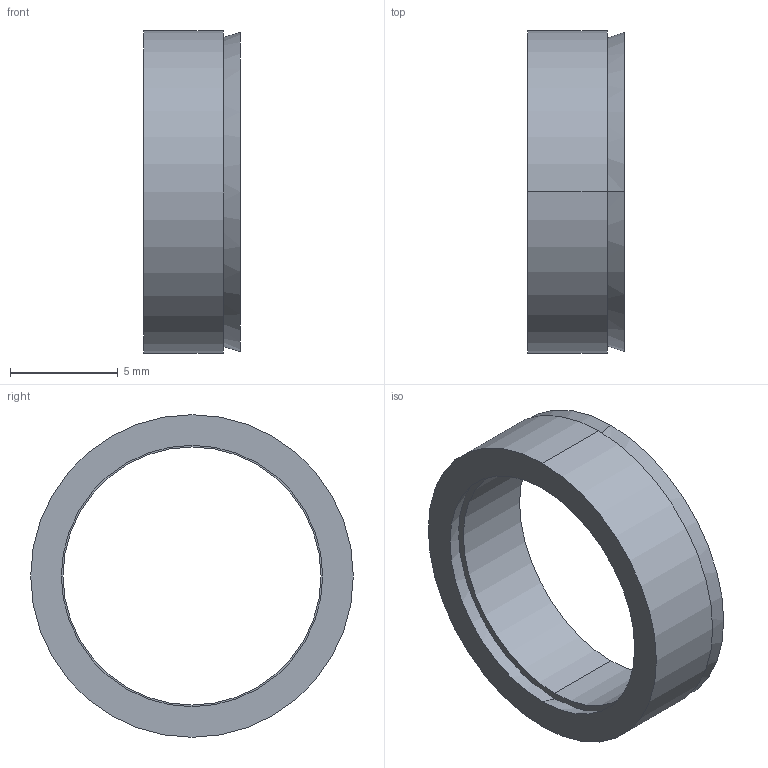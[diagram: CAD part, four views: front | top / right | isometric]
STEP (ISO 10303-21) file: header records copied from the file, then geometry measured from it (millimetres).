
FILE_DESCRIPTION (( 'STEP AP203' ), '1' );
FILE_NAME ('R-12-15.STEP', '2017-11-06T01:31:32', ( 'MYCOM' ), ( '' ), 'SwSTEP 2.0', 'SolidWorks 2015', '' );
FILE_SCHEMA (( 'CONFIG_CONTROL_DESIGN' ));
Length unit declared in the file: millimetre
Products named in the file (1): R-12-15
Bounding box: 4.5 x 15 x 15 mm (x, y, z)
Surface area: 789.1 mm2 (no closed solid volume)
Topology: 0 solids, 2 shells, 12 faces, 24 edges, 16 vertices
Faces by surface type: cone 4, cylinder 4, plane 4
Entity records: 406 total; most frequent: DIRECTION 66, CARTESIAN_POINT 53, ORIENTED_EDGE 48, AXIS2_PLACEMENT_3D 29, EDGE_CURVE 24, VERTEX_POINT 16, CIRCLE 16, EDGE_LOOP 16
